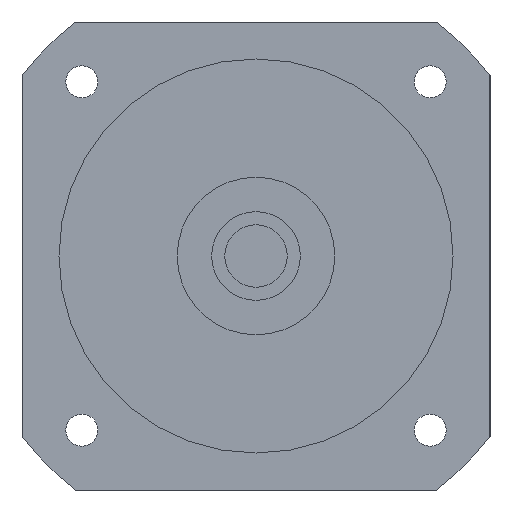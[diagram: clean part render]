
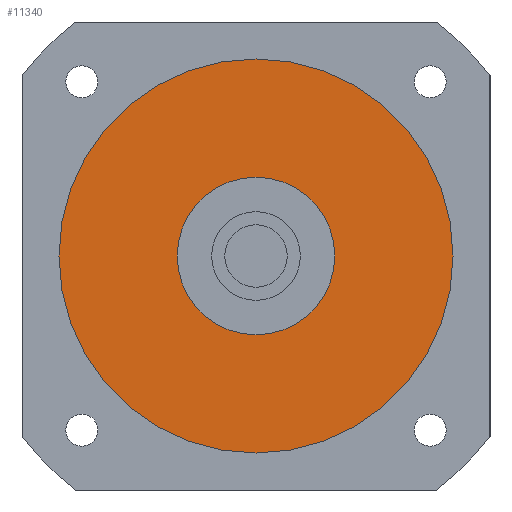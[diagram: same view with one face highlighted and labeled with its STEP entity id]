
A CAD part, left-side view. The second image highlights one B-rep face of the part: STEP entity #11340.
In plain terms, the highlighted planar face has unit normal (-1, 0, 0) as drawn and (0, 0, -1) by its records, which use the part's own axes.
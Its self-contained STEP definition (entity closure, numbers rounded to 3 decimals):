
#10680=CARTESIAN_POINT('',(-16.,0.,-32.5));
#10690=VERTEX_POINT('',#10680);
#10740=CARTESIAN_POINT('',(0.,0.,
-32.5));
#10750=DIRECTION('',(0.,0.,1.));
#10760=DIRECTION('',(0.,1.,0.));
#10770=AXIS2_PLACEMENT_3D('',#10740,#10750,#10760);
#10780=CIRCLE('',#10770,16.);
#10790=CARTESIAN_POINT('',(16.,0.,-32.5));
#10800=VERTEX_POINT('',#10790);
#10810=EDGE_CURVE('',#10690,#10800,#10780,.T.);
#11010=CARTESIAN_POINT('',(0.,0.,
-32.5));
#11020=DIRECTION('',(0.,0.,1.));
#11030=DIRECTION('',(-1.,0.,0.));
#11040=AXIS2_PLACEMENT_3D('',#11010,#11020,#11030);
#11050=PLANE('',#11040);
#11060=CARTESIAN_POINT('',(0.,0.,
-32.5));
#11070=DIRECTION('',(0.,0.,1.));
#11080=DIRECTION('',(0.,1.,0.));
#11090=AXIS2_PLACEMENT_3D('',#11060,#11070,#11080);
#11100=CIRCLE('',#11090,40.);
#11110=CARTESIAN_POINT('',(0.,40.,-32.5));
#11120=VERTEX_POINT('',#11110);
#11130=CARTESIAN_POINT('',(-40.,0.,-32.5));
#11140=VERTEX_POINT('',#11130);
#11150=EDGE_CURVE('',#11120,#11140,#11100,.T.);
#11160=ORIENTED_EDGE('',*,*,#11150,.F.);
#11170=CARTESIAN_POINT('',(40.,0.,-32.5));
#11180=VERTEX_POINT('',#11170);
#11190=EDGE_CURVE('',#11140,#11180,#11100,.T.);
#11200=ORIENTED_EDGE('',*,*,#11190,.F.);
#11210=EDGE_CURVE('',#11180,#11120,#11100,.T.);
#11220=ORIENTED_EDGE('',*,*,#11210,.F.);
#11230=EDGE_LOOP('',(#11220,#11200,#11160));
#11240=FACE_OUTER_BOUND('',#11230,.T.);
#11250=ORIENTED_EDGE('',*,*,#10810,.T.);
#11260=CARTESIAN_POINT('',(0.,16.,-32.5));
#11270=VERTEX_POINT('',#11260);
#11280=EDGE_CURVE('',#11270,#10690,#10780,.T.);
#11290=ORIENTED_EDGE('',*,*,#11280,.T.);
#11300=EDGE_CURVE('',#10800,#11270,#10780,.T.);
#11310=ORIENTED_EDGE('',*,*,#11300,.T.);
#11320=EDGE_LOOP('',(#11310,#11290,#11250));
#11330=FACE_BOUND('',#11320,.T.);
#11340=ADVANCED_FACE('',(#11240,#11330),#11050,.F.);
